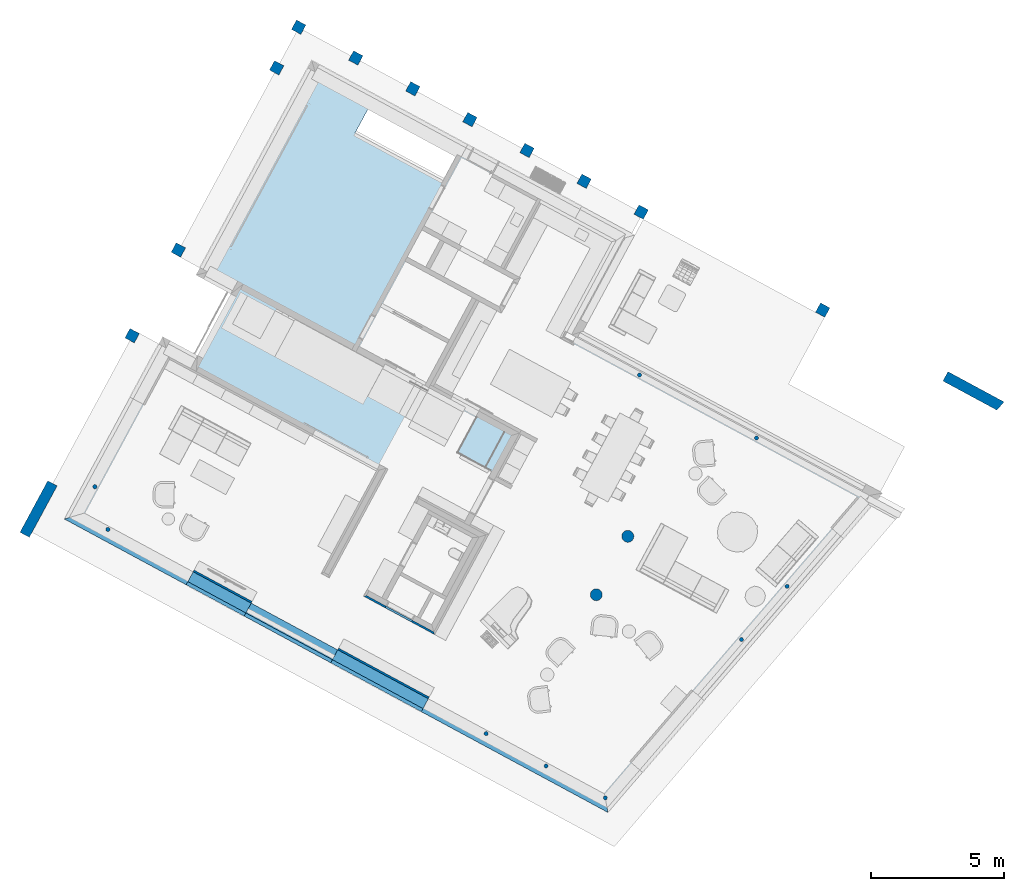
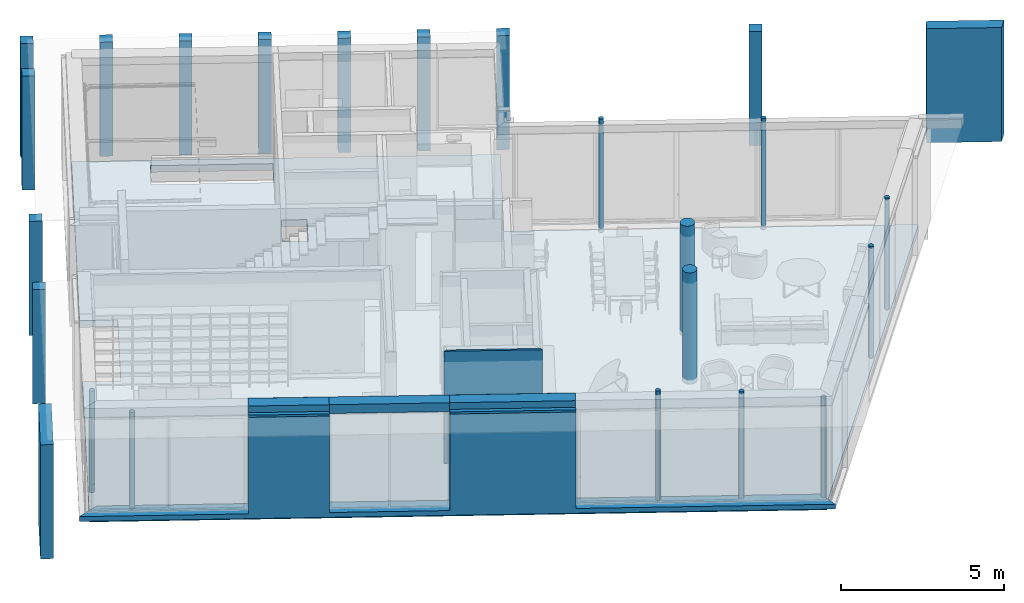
# One storey, part 1 of 36: 24 columns, 7 walls, 1 slab, 5 openings.
"""IFC2X3 building model written with IfcOpenShell, lengths in metres."""

from ifc_helpers import new_model, entity, si_unit, converted_unit, derived_unit, money_unit, direction, frame, origin_with_axes, origin_2d_with_axis, place, context, subcontext, project, spatial, polyline, rectangle, circle, hollow_circle, outline, composite_profile, extrude, faceted_brep, material, material_list, layer, layer_set, layer_usage, type_object, element, save


model = new_model("IFC2X3")

# Units and contexts
model_context = context("Model", 3, precision=1e-05, world=origin_with_axes(), true_north=direction((0.0, 1.0)))
body_context = subcontext(model_context, "Body", "Model", "MODEL_VIEW")
ifc_project = project(units=[si_unit("LENGTHUNIT", "METRE"), si_unit("AREAUNIT", "SQUARE_METRE"), si_unit("VOLUMEUNIT", "CUBIC_METRE"), converted_unit("PLANEANGLEUNIT", "DEGREE", entity("IfcPlaneAngleMeasure", 0.0174532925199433), si_unit("PLANEANGLEUNIT", "RADIAN"), dimensions=[0, 0, 0, 0, 0, 0, 0]), money_unit("EUR"), converted_unit("TIMEUNIT", "Year", entity("IfcTimeMeasure", 31556926.0), si_unit("TIMEUNIT", "SECOND"), dimensions=[0, 0, 1, 0, 0, 0, 0]), si_unit("MASSUNIT", "GRAM", prefix="KILO"), si_unit("THERMODYNAMICTEMPERATUREUNIT", "DEGREE_CELSIUS"), si_unit("LUMINOUSINTENSITYUNIT", "LUMEN"), si_unit("ENERGYUNIT", "JOULE", prefix="MEGA"), derived_unit("THERMALCONDUCTANCEUNIT", [(si_unit("POWERUNIT", "WATT"), 1), (si_unit("LENGTHUNIT", "METRE"), -1), (si_unit("THERMODYNAMICTEMPERATUREUNIT", "KELVIN"), -1)]), derived_unit("SPECIFICHEATCAPACITYUNIT", [(si_unit("ENERGYUNIT", "JOULE"), 1), (si_unit("MASSUNIT", "GRAM", prefix="KILO"), -1), (si_unit("THERMODYNAMICTEMPERATUREUNIT", "KELVIN"), -1)]), derived_unit("MASSDENSITYUNIT", [(si_unit("MASSUNIT", "GRAM", prefix="KILO"), 1), (si_unit("VOLUMEUNIT", "CUBIC_METRE"), -1)])], contexts=[model_context])

# Site, building, storey
site_placement = place(None, frame((-3.949935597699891, 1.740105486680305, 0.0), z_axis=(0.0, 0.0, 1.0), x_axis=(0.8799804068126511, -0.475009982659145, 0.0)))
site = spatial("IfcSite", under=ifc_project, at=site_placement, Name="Gelände", CompositionType="ELEMENT")
building_placement = place(site_placement, origin_with_axes())
building = spatial("IfcBuilding", under=site, at=building_placement, Name="Gebäude", CompositionType="ELEMENT")
storey_placement = place(building_placement, origin_with_axes())
storey = spatial("IfcBuildingStorey", under=building, at=storey_placement, Name="Erdgeschoss", CompositionType="ELEMENT", Elevation=0.0)

# Columns
ifc_material_1 = material(Name="_SIWH - Beton, Stahlbeton")
column_type_1 = type_object("IfcColumnType", Name="_SIWH - Beton, Stahlbeton 400 x 400", PredefinedType="COLUMN")
for number, where, z_axis, x_axis in (
    (1, (10.15997864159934, 20.38528753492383, -0.699999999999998), (0.0, 0.0, 1.0), (1.0, 0.0, 0.0)),
    (2, (17.48247501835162, 20.38527610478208, -0.699999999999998), (0.0, 0.0, 1.0), (1.0, 0.0, 0.0)),
    (3, (2.837482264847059, 20.38527570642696, -0.699999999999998), (0.0, 0.0, 1.0), (1.0, 0.0, 0.0)),
    (4, (25.24515309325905, 20.38528753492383, -0.699999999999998), (0.0, 0.0, 1.0), (1.0, 0.0, 0.0)),
    (5, (5.278314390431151, 20.38528753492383, -0.699999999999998), (0.0, 0.0, 1.0), (1.0, 0.0, 0.0)),
):
    element("IfcColumn", number, at=place(storey_placement, frame(where, z_axis=z_axis, x_axis=x_axis)), inside=storey, type_object=column_type_1, material=ifc_material_1, Name="Stütze-003", ObjectType="COLUMN", context=body_context, shape_type="SweptSolid", body=[
        extrude(rectangle(XDim=0.4, YDim=0.4, at=origin_2d_with_axis()), origin_with_axes(), (0.0, 0.0, 1.0), 4.279999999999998),
    ])
for number, where, z_axis, x_axis in (
    (6, (2.837489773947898, 18.64471461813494, -0.699999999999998), (0.0, 0.0, 1.0), (1.0, 0.0, 0.0)),
    (7, (2.837482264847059, 7.193058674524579, -0.699999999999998), (0.0, 0.0, 1.0), (1.0, 0.0, 0.0)),
):
    element("IfcColumn", number, at=place(storey_placement, frame(where, z_axis=z_axis, x_axis=x_axis)), inside=storey, type_object=column_type_1, material=ifc_material_1, Name="Stütze-003", ObjectType="COLUMN", context=body_context, shape_type="SweptSolid", body=[
        extrude(rectangle(XDim=0.4, YDim=0.4, at=origin_2d_with_axis()), origin_with_axes(), (0.0, 0.0, 1.0), 4.280000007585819),
    ])
for number, where, z_axis, x_axis in (
    (8, (7.719146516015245, 20.38528753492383, -0.699999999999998), (0.0, 0.0, 1.0), (1.0, 0.0, 0.0)),
    (9, (15.04164289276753, 20.38528753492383, -0.699999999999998), (0.0, 0.0, 1.0), (1.0, 0.0, 0.0)),
    (10, (12.60081076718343, 20.38528753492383, -0.699999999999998), (0.0, 0.0, 1.0), (1.0, 0.0, 0.0)),
):
    element("IfcColumn", number, at=place(storey_placement, frame(where, z_axis=z_axis, x_axis=x_axis)), inside=storey, type_object=column_type_1, material=ifc_material_1, Name="Stütze-003", ObjectType="COLUMN", context=body_context, shape_type="SweptSolid", body=[
        extrude(rectangle(XDim=0.4, YDim=0.4, at=origin_2d_with_axis()), origin_with_axes(), (0.0, 0.0, 1.0), 4.279999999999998),
    ])
column_1_placement = place(storey_placement, frame((2.837482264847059, 10.85779998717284, -0.699999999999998), z_axis=(0.0, 0.0, 1.0), x_axis=(-1.0, 0.0, 0.0)))
element("IfcColumn", 11, at=column_1_placement, inside=storey, type_object=column_type_1, material=ifc_material_1, Name="Stütze-003", ObjectType="COLUMN", context=body_context, shape_type="SweptSolid", body=[
    extrude(rectangle(XDim=0.4, YDim=0.4, at=origin_2d_with_axis()), frame((0.0, 0.0, 0.0), z_axis=(0.0, 0.0, -1.0), x_axis=(-1.0, 0.0, 0.0)), (0.0, 0.0, -1.0), 4.280000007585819),
])
column_type_2 = type_object("IfcColumnType", Name="_SIWH - Außenstütze1 EG 2395 x 400", PredefinedType="COLUMN")
column_2_placement = place(storey_placement, frame((30.49515309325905, 20.58528752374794, -0.699999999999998), z_axis=(0.0, 0.0, 1.0), x_axis=(1.0, 0.0, 0.0)))
element("IfcColumn", 12, at=column_2_placement, inside=storey, type_object=column_type_2, material=ifc_material_1, Name="Stütze-004", ObjectType="COLUMN", context=body_context, shape_type="SweptSolid", body=[
    extrude(outline(polyline([(0.0, -0.3999999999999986), (2.30763671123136, -0.4000000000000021), (2.395, 0.0), (0.0, 0.0), (0.0, -0.3999999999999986)])), origin_with_axes(), (0.0, 0.0, 1.0), 4.279999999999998),
])
ifc_material_2 = material(Name="Metall, Edelstahl")
column_type_3 = type_object("IfcColumnType", Name="Metall, Edelstahl D152", PredefinedType="COLUMN")
column_3_placement = place(storey_placement, frame((29.00554945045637, 10.6023659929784, -0.1800000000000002), z_axis=(0.0, 0.0, 1.0), x_axis=(0.9769696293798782, -0.2133784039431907, 0.0)))
element("IfcColumn", 13, at=column_3_placement, inside=storey, type_object=column_type_3, material=ifc_material_2, Name="Stütze-003", ObjectType="COLUMN", context=body_context, shape_type="SweptSolid", body=[
    extrude(circle(Radius=0.076, at=origin_2d_with_axis()), origin_with_axes(), (0.0, 0.0, 1.0), 4.200000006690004),
])
column_4_placement = place(storey_placement, frame((20.34097637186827, 14.96310096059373, -0.1499999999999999), z_axis=(0.0, 0.0, 1.0), x_axis=(1.0, 0.0, 0.0)))
element("IfcColumn", 14, at=column_4_placement, inside=storey, type_object=column_type_3, material=ifc_material_2, Name="Stütze-003", ObjectType="COLUMN", context=body_context, shape_type="SweptSolid", body=[
    extrude(circle(Radius=0.076, at=origin_2d_with_axis()), origin_with_axes(), (0.0, 0.0, 1.0), 4.250000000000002),
])
column_5_placement = place(storey_placement, frame((25.33797719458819, 14.96310096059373, -0.1499999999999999), z_axis=(0.0, 0.0, 1.0), x_axis=(1.0, 0.0, 0.0)))
element("IfcColumn", 15, at=column_5_placement, inside=storey, type_object=column_type_3, material=ifc_material_2, Name="Stütze-003", ObjectType="COLUMN", context=body_context, shape_type="SweptSolid", body=[
    extrude(circle(Radius=0.076, at=origin_2d_with_axis()), origin_with_axes(), (0.0, 0.0, 1.0), 4.170000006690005),
])
column_6_placement = place(storey_placement, frame((28.44198971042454, 8.022063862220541, -0.1800000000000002), z_axis=(0.0, 0.0, 1.0), x_axis=(0.9769696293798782, -0.2133784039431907, 0.0)))
element("IfcColumn", 16, at=column_6_placement, inside=storey, type_object=column_type_3, material=ifc_material_2, Name="Stütze-003", ObjectType="COLUMN", context=body_context, shape_type="SweptSolid", body=[
    extrude(circle(Radius=0.076, at=origin_2d_with_axis()), origin_with_axes(), (0.0, 0.0, 1.0), 4.200000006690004),
])
ifc_material_3 = material(Name="_SIWH | Metall, Stahl lackiert")
ifc_material_4 = material(Name="_SIWH - Luftschicht vertikal")
ifc_material_list_1 = material_list([ifc_material_3, ifc_material_4])
column_type_4 = type_object("IfcColumnType", Name="_SIWH - Luftschicht vertikal D160", PredefinedType="COLUMN")
for number, where, z_axis, x_axis in (
    (17, (5.49748062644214, 0.3449953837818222, -0.18), (0.0, 0.0, 1.0), (1.0, 0.0, 0.0)),
    (18, (4.302529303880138, 1.524985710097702, -0.18), (0.0, 0.0, 1.0), (1.0, 0.0, 0.0)),
):
    element("IfcColumn", number, at=place(storey_placement, frame(where, z_axis=z_axis, x_axis=x_axis)), inside=storey, type_object=column_type_4, material=ifc_material_list_1, Name="Stütze-003", ObjectType="COLUMN", context=body_context, shape_type="SweptSolid", body=[
        extrude(composite_profile([hollow_circle(Radius=0.07984999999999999, WallThickness=0.01, at=origin_2d_with_axis()), circle(Radius=0.06985, at=origin_2d_with_axis())]), origin_with_axes(), (0.0, 0.0, 1.0), 3.800000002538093),
    ])
column_type_5 = type_object("IfcColumnType", Name="_SIWH - Beton, Stahlbeton 400 x 2200", PredefinedType="COLUMN")
column_7_placement = place(storey_placement, frame((2.837482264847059, -0.2200118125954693, -0.699999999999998), z_axis=(0.0, 0.0, 1.0), x_axis=(1.0, 0.0, 0.0)))
element("IfcColumn", 19, at=column_7_placement, inside=storey, type_object=column_type_5, material=ifc_material_1, Name="Stütze-003", ObjectType="COLUMN", context=body_context, shape_type="SweptSolid", body=[
    extrude(rectangle(XDim=0.4, YDim=2.2, at=origin_2d_with_axis()), origin_with_axes(), (0.0, 0.0, 1.0), 4.27999999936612),
])
ifc_material_5 = material(Name="Metall, Edelstahl-Stütze")
column_type_6 = type_object("IfcColumnType", Name="Metall, Edelstahl-Stütze D152", PredefinedType="COLUMN")
column_8_placement = place(storey_placement, frame((24.23819426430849, 0.3450001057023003, -0.1800000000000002), z_axis=(0.0, 0.0, 1.0), x_axis=(1.0, 0.0, 0.0)))
element("IfcColumn", 20, at=column_8_placement, inside=storey, type_object=column_type_6, material=ifc_material_5, Name="Stütze-003", ObjectType="COLUMN", context=body_context, shape_type="SweptSolid", body=[
    extrude(circle(Radius=0.076, at=origin_2d_with_axis()), origin_with_axes(), (0.0, 0.0, 1.0), 4.199999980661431),
])
column_9_placement = place(storey_placement, frame((21.67152759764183, 0.3450001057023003, -0.1499999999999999), z_axis=(0.0, 0.0, 1.0), x_axis=(1.0, 0.0, 0.0)))
element("IfcColumn", 21, at=column_9_placement, inside=storey, type_object=column_type_6, material=ifc_material_5, Name="Stütze-003", ObjectType="COLUMN", context=body_context, shape_type="SweptSolid", body=[
    extrude(circle(Radius=0.076, at=origin_2d_with_axis()), origin_with_axes(), (0.0, 0.0, 1.0), 4.250000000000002),
])
column_10_placement = place(storey_placement, frame((26.76525426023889, 0.3450001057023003, -0.1800000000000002), z_axis=(0.0, 0.0, 1.0), x_axis=(1.0, 0.0, 0.0)))
element("IfcColumn", 22, at=column_10_placement, inside=storey, type_object=column_type_6, material=ifc_material_5, Name="Stütze-003", ObjectType="COLUMN", context=body_context, shape_type="SweptSolid", body=[
    extrude(circle(Radius=0.076, at=origin_2d_with_axis()), origin_with_axes(), (0.0, 0.0, 1.0), 3.93),
])
ifc_material_6 = material(Name="Beton, Stahlbeton C30/35")
column_type_7 = type_object("IfcColumnType", Name="Beton, Stahlbeton C30/35 D450", PredefinedType="NOTDEFINED")
for number, where, z_axis, x_axis in (
    (23, (22.83697549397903, 9.410553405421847, -0.1499999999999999), (0.0, 0.0, 1.0), (1.0, 0.0, 0.0)),
    (24, (22.83697549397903, 6.910553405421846, -0.1499999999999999), (0.0, 0.0, 1.0), (1.0, 0.0, 0.0)),
):
    element("IfcColumn", number, at=place(storey_placement, frame(where, z_axis=z_axis, x_axis=x_axis)), inside=storey, type_object=column_type_7, material=ifc_material_6, Name="Stütze-003", ObjectType="NOTDEFINED", context=body_context, shape_type="SweptSolid", body=[
        extrude(circle(Radius=0.225, at=origin_2d_with_axis()), origin_with_axes(), (0.0, 0.0, 1.0), 4.170000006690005),
    ])

# Slab, opening
ifc_layer_1 = layer(ifc_material_1, 0.25, ventilated="UNKNOWN")
ifc_layer_set_1 = layer_set([ifc_layer_1], Name="_SIWH - Beton, Stahlbeton 0.25")
ifc_layer_usage_1 = layer_usage(ifc_layer_set_1, "AXIS3", "NEGATIVE", 0.25)
slab_type = type_object("IfcSlabType", Name="_SIWH - Beton, Stahlbeton 250", PredefinedType="FLOOR")
slab_placement = place(storey_placement, frame((4.182485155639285, 0.2249914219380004, -0.1800000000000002), z_axis=(0.0, 0.0, 1.0), x_axis=(1.0, 0.0, 0.0)))
slab = element("IfcSlab", 25, at=slab_placement, inside=storey, type_object=slab_type, material=ifc_layer_usage_1, Name="Decke004", PredefinedType="FLOOR", context=body_context, shape_type="SweptSolid", body=[
    extrude(outline(polyline([(0.0, 0.0), (22.67938862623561, 0.0), (24.32559897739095, 7.537309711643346), (25.92451140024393, 14.85805468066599), (13.18500922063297, 14.85805468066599), (13.18499074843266, 18.97528335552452), (4.668971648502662e-05, 18.97528599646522), (3.203654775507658e-05, 10.43280795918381), (1.174996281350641, 10.43281183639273), (1.175007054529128, 7.168066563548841), (0.0, 7.168062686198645), (0.0, 0.0)]), holes=[polyline([(2.414916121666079, 18.67529423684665), (6.179914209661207, 18.67529423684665), (6.179914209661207, 17.66529189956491), (2.414916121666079, 17.66529189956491), (2.414916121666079, 18.67529423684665)])]), frame((0.0, 0.0, -0.25), z_axis=(0.0, 0.0, 1.0), x_axis=(1.0, 0.0, 0.0)), (0.0, 0.0, 1.0), 0.25),
])
opening_1_placement = place(slab_placement, frame((-4.182485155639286, -0.2249914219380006, 0.1800000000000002), z_axis=(0.0, 0.0, 1.0), x_axis=(1.0, 0.0, 0.0)))
element("IfcOpeningElement", 26, at=opening_1_placement, cuts=slab, Name="BD-002", ObjectType="OPENING", context=body_context, shape_type="SweptSolid", body=[
    extrude(outline(polyline([(-0.3951594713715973, -0.5808026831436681), (0.3951645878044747, -0.5807991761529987), (0.3951623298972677, 0.5808026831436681), (-0.3951645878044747, 0.5807992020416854), (-0.3951594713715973, -0.5808026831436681)])), frame((10.93257292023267, 15.29389253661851, -0.4300000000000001), z_axis=(0.0, 0.0, 1.0), x_axis=(1.0, 0.0, 0.0)), (0.0, 0.0, 1.0), 0.4999999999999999),
])

# Wall, openings
ifc_material_7 = material(Name="_SIWH - MW Vormauerziegel")
ifc_layer_2 = layer(ifc_material_7, 0.115, ventilated="UNKNOWN")
ifc_layer_3 = layer(ifc_material_4, 0.02, ventilated="UNKNOWN")
ifc_material_8 = material(Name="_SIWH - Dämmung, weich Mineralwolle")
ifc_layer_4 = layer(ifc_material_8, 0.18, ventilated="UNKNOWN")
ifc_layer_5 = layer(ifc_material_1, 0.24, ventilated="UNKNOWN")
ifc_layer_set_2 = layer_set([ifc_layer_2, ifc_layer_3, ifc_layer_4, ifc_layer_5], Name="_SIWH - WA | Stb. 24+WD 18+LS 2+Verblender 11,5 | 55,5cm")
ifc_layer_usage_2 = layer_usage(ifc_layer_set_2, "AXIS2", "POSITIVE", -0.315)
wall_type_1 = type_object("IfcWallType", Name="_SIWH - WA | Stb. 24+WD 18+LS 2+Verblender 11,5 | 55,5cm 555", PredefinedType="NOTDEFINED")
wall_1_placement = place(storey_placement, frame((4.1825262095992, 0.2249963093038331, -0.18), z_axis=(0.0, 0.0, 1.0), x_axis=(0.9999999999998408, -5.644435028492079e-07, 0.0)))
wall_1 = element("IfcWallStandardCase", 27, at=wall_1_placement, inside=storey, type_object=wall_type_1, material=ifc_layer_usage_2, Name="A-Wand040", ObjectType="NOTDEFINED", context=body_context, shape_type="SweptSolid", body=[
    extrude(outline(polyline([(-0.3149999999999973, -0.3150000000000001), (22.93297601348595, -0.315), (22.4861091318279, 0.2399999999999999), (0.2400000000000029, 0.2399999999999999), (-0.3149999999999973, -0.3150000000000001)])), origin_with_axes(), (0.0, 0.0, 1.0), 3.799999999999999),
])
opening_2_placement = place(wall_1_placement, frame((18.73616060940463, 0.0, 0.1800000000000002), z_axis=(0.0, 0.0, 1.0), x_axis=(1.0, 0.0, 0.0)))
element("IfcOpeningElement", 28, at=opening_2_placement, cuts=wall_1, Name="Fenster-003", context=body_context, shape_type="Brep", body=[
    faceted_brep([(4.196815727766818, -0.315000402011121, 3.619999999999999), (4.196815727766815, -0.3160128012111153, 3.619999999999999), (4.196815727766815, -0.3160128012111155, 0.0), (4.196815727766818, -0.3150004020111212, 0.0), (3.842542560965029, 0.1250000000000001, 3.619999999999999), (-3.783825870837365, 0.1250000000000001, 3.619999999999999), (-3.783825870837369, -0.3160128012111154, 3.619999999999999), (-3.783825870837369, -0.3160128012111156, 0.0), (-3.783825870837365, 0.1249999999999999, 0.0), (3.842542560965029, 0.1249999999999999, 0.0), (3.749133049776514, 0.2410128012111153, 0.0), (3.749133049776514, 0.2410128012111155, 3.619999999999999), (-3.783825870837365, 0.2410128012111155, 3.619999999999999), (-3.783825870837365, 0.2410128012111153, 0.0)], [[[0, 1, 2, 3]], [[4, 5, 6, 1, 0]], [[6, 7, 2, 1]], [[8, 9, 3, 2, 7]], [[0, 3, 9, 10, 11, 4]], [[5, 4, 11, 12]], [[5, 8, 7, 6]], [[9, 8, 13, 10]], [[10, 13, 12, 11]], [[8, 5, 12, 13]]]),
])
opening_3_placement = place(wall_1_placement, frame((9.227462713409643, 0.0, 0.1800000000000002), z_axis=(0.0, 0.0, 1.0), x_axis=(1.0, 0.0, 0.0)))
element("IfcOpeningElement", 29, at=opening_3_placement, cuts=wall_1, Name="Fenster-003", context=body_context, shape_type="SweptSolid", body=[
    extrude(rectangle(XDim=3.699999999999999, YDim=3.619999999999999, at=origin_2d_with_axis()), frame((0.0, -0.2449999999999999, 1.81), z_axis=(0.0, 1.0, 0.0), x_axis=(-1.0, 0.0, 0.0)), (0.0, 0.0, 1.0), 1.04),
    extrude(rectangle(XDim=3.699999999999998, YDim=3.619999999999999, at=origin_2d_with_axis()), frame((0.0, -0.2449999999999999, 1.81), z_axis=(0.0, -1.0, 0.0), x_axis=(-1.0, 0.0, 0.0)), (0.0, 0.0, 1.0), 0.625),
])
opening_4_placement = place(wall_1_placement, frame((2.544955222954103, 0.0, 0.1800000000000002), z_axis=(0.0, 0.0, 1.0), x_axis=(1.0, 0.0, 0.0)))
element("IfcOpeningElement", 30, at=opening_4_placement, cuts=wall_1, Name="Fenster-014", context=body_context, shape_type="Brep", body=[
    faceted_brep([(2.349999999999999, 0.1249999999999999, 0.0), (2.349999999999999, 0.1250000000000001, 3.619999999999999), (2.350000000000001, -0.3160128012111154, 3.619999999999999), (2.350000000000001, -0.3160128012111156, 0.0), (2.349999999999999, 0.2410128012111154, 0.0), (2.349999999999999, 0.2410128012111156, 3.619999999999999), (-2.419955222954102, 0.1250000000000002, 3.619999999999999), (-2.859999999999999, -0.3150447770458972, 3.619999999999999), (-2.859999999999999, -0.3160128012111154, 3.619999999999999), (-2.859999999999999, -0.3160128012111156, 0.0), (-2.419955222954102, 0.125, 0.0), (-2.859999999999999, -0.3150447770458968, 0.0), (-2.303942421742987, 0.2410128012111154, 0.0), (-2.303942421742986, 0.2410128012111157, 3.619999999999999)], [[[0, 1, 2, 3]], [[1, 0, 4, 5]], [[1, 6, 7, 8, 2]], [[8, 9, 3, 2]], [[10, 0, 3, 9, 11]], [[0, 10, 12, 4]], [[5, 4, 12, 13]], [[6, 1, 5, 13]], [[7, 6, 13, 12, 10, 11]], [[11, 9, 8, 7]]]),
])

# Wall
ifc_layer_6 = layer(ifc_material_8, 0.18, ventilated="UNKNOWN")
ifc_layer_7 = layer(ifc_material_1, 0.24, ventilated="UNKNOWN")
ifc_layer_set_3 = layer_set([ifc_layer_6, ifc_layer_7], Name="_SIWH - WA | Stb. 24+WD 18 | 42cm")
ifc_layer_usage_3 = layer_usage(ifc_layer_set_3, "AXIS2", "POSITIVE", -0.18)
wall_type_2 = type_object("IfcWallType", Name="_SIWH - WA | Stb. 24+WD 18 | 42cm 420", PredefinedType="NOTDEFINED")
wall_2_placement = place(storey_placement, frame((11.559988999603, 0.2249835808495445, 3.619999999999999), z_axis=(0.0, 0.0, 1.0), x_axis=(0.9999999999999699, -2.452875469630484e-07, 0.0)))
element("IfcWallStandardCase", 31, at=wall_2_placement, inside=storey, type_object=wall_type_2, material=ifc_layer_usage_3, Name="A-Wand008", ObjectType="NOTDEFINED", context=body_context, shape_type="SweptSolid", body=[
    extrude(outline(polyline([(0.0, -0.18), (3.699999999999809, -0.18), (3.699999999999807, 0.24), (0.0, 0.2399999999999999), (0.0, -0.18)])), origin_with_axes(), (0.0, 0.0, 1.0), 0.330000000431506),
])

# Wall, opening
ifc_material_9 = material(Name="_SIWH - Gipskarton")
ifc_layer_8 = layer(ifc_material_9, 0.0125, ventilated="UNKNOWN")
ifc_layer_9 = layer(ifc_material_9, 0.0125, ventilated="UNKNOWN")
ifc_material_10 = material(Name="_SIWH - Installationswand, raumhoch")
ifc_layer_10 = layer(ifc_material_10, 0.05, ventilated="UNKNOWN")
ifc_layer_set_4 = layer_set([ifc_layer_8, ifc_layer_9, ifc_layer_10], Name="_SIWH - WI | Vorsatz-GK 2-lagig | 7,5cm")
ifc_layer_usage_4 = layer_usage(ifc_layer_set_4, "AXIS2", "NEGATIVE", 0.0)
wall_type_3 = type_object("IfcWallType", Name="_SIWH - WI | Vorsatz-GK 2-lagig | 7,5cm  75", PredefinedType="PLUMBINGWALL")
wall_3_placement = place(storey_placement, frame((18.19650044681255, 2.703482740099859, -0.1800000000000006), z_axis=(0.0, 0.0, 1.0), x_axis=(-1.0, 0.0, 0.0)))
wall_3 = element("IfcWallStandardCase", 32, at=wall_3_placement, inside=storey, type_object=wall_type_3, material=ifc_layer_usage_4, Name="L-Wand008", ObjectType="PLUMBINGWALL", context=body_context, shape_type="SweptSolid", body=[
    extrude(outline(polyline([(0.07499999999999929, -0.07500000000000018), (2.960672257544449, -0.07500000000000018), (3.035672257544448, 0.0), (0.0, 0.0), (0.07499999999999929, -0.07500000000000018)])), origin_with_axes(), (0.0, 0.0, 1.0), 4.200000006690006),
])
opening_5_placement = place(wall_3_placement, frame((1.555843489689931, 0.0, 0.1800000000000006), z_axis=(0.0, 0.0, 1.0), x_axis=(1.0, 0.0, 0.0)))
element("IfcOpeningElement", 33, at=opening_5_placement, cuts=wall_3, Name="Tür-025", context=body_context, shape_type="SweptSolid", body=[
    extrude(rectangle(XDim=1.135000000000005, YDim=2.1, at=origin_2d_with_axis()), frame((0.0, -0.02499999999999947, 1.05), z_axis=(0.0, -1.0, 0.0), x_axis=(1.0, 0.0, 0.0)), (0.0, 0.0, 1.0), 0.125),
    extrude(rectangle(XDim=1.135000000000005, YDim=2.1, at=origin_2d_with_axis()), frame((0.0, -0.02499999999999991, 1.05), z_axis=(0.0, 1.0, 0.0), x_axis=(1.0, 0.0, 0.0)), (0.0, 0.0, 1.0), 0.1),
])

# Walls
ifc_layer_usage_5 = layer_usage(ifc_layer_set_4, "AXIS2", "NEGATIVE", 0.07500000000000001)
wall_4_placement = place(storey_placement, frame((15.25998888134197, 0.4649900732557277, -0.1799999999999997), z_axis=(0.0, 0.0, 1.0), x_axis=(0.9999999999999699, -2.452875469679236e-07, 0.0)))
element("IfcWallStandardCase", 34, at=wall_4_placement, inside=storey, type_object=wall_type_3, material=ifc_layer_usage_5, Name="L-Wand014", ObjectType="PLUMBINGWALL", context=body_context, shape_type="SweptSolid", body=[
    extrude(outline(polyline([(0.0, 0.0), (3.874872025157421, 0.0), (3.874872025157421, 0.07499999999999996), (0.0, 0.07499999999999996), (0.0, 0.0)])), origin_with_axes(), (0.0, 0.0, 1.0), 4.080000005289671),
])
ifc_layer_usage_6 = layer_usage(ifc_layer_set_4, "AXIS2", "NEGATIVE", 0.07500000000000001)
wall_5_placement = place(storey_placement, frame((9.077481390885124, 0.4649921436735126, -0.1799999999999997), z_axis=(0.0, 0.0, 1.0), x_axis=(0.9999999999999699, -2.452875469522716e-07, 0.0)))
element("IfcWallStandardCase", 35, at=wall_5_placement, inside=storey, type_object=wall_type_3, material=ifc_layer_usage_6, Name="L-Wand013", ObjectType="PLUMBINGWALL", context=body_context, shape_type="SweptSolid", body=[
    extrude(outline(polyline([(0.0, 0.0), (2.482507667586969, 0.0), (2.482507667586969, 0.07500000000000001), (0.0, 0.07500000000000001), (0.0, 0.0)])), origin_with_axes(), (0.0, 0.0, 1.0), 4.080000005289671),
])
ifc_material_list_2 = material_list([ifc_material_8, ifc_material_1, ifc_material_7, ifc_material_4])
wall_type_4 = type_object("IfcWallType", Name="_SIWH - Sturz Außenwand EG 555 x 330", PredefinedType="NOTDEFINED")
wall_6_placement = place(storey_placement, frame((15.25998882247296, 0.2249900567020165, 3.620000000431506), z_axis=(0.0, 0.0, 1.0), x_axis=(0.9999999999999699, -2.452875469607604e-07, 0.0)))
element("IfcWall", 36, at=wall_6_placement, inside=storey, type_object=wall_type_4, material=ifc_material_list_2, Name="A-Wand010", ObjectType="NOTDEFINED", context=body_context, shape_type="SweptSolid", body=[
    extrude(composite_profile([outline(polyline([(0.1799999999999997, 0.3300000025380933), (3.224471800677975e-10, 0.3300000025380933), (3.224471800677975e-10, 0.0), (0.1799999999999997, 0.0), (0.1800000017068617, 0.08000000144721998), (0.1799999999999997, 0.3300000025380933)])), outline(polyline([(-0.2400000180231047, 0.33), (-0.2400000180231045, 0.0), (0.0, 0.0), (0.0, 0.33), (-0.2400000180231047, 0.33)])), outline(polyline([(0.1999999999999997, 0.08000000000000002), (0.1999999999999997, 0.0), (0.3149999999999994, 0.0), (0.3149999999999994, 0.08000000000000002), (0.1999999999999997, 0.08000000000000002)])), outline(polyline([(0.1800000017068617, 0.0), (0.2000000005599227, 0.0), (0.2000000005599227, 0.07999999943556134), (0.1800000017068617, 0.08000000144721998), (0.1800000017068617, 0.0)]))]), frame((0.0, 0.0, 0.0), z_axis=(-1.0, 0.0, 0.0), x_axis=(0.0, -1.0, 0.0)), (0.0, 0.0, -1.0), 3.874872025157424),
])
wall_7_placement = place(storey_placement, frame((9.077481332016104, 0.2249921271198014, 3.620000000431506), z_axis=(0.0, 0.0, 1.0), x_axis=(0.9999999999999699, -2.452875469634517e-07, 0.0)))
element("IfcWall", 37, at=wall_7_placement, inside=storey, type_object=wall_type_4, material=ifc_material_list_2, Name="A-Wand009", ObjectType="NOTDEFINED", context=body_context, shape_type="SweptSolid", body=[
    extrude(composite_profile([outline(polyline([(0.1799999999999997, 0.3300000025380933), (3.224471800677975e-10, 0.3300000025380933), (3.224471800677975e-10, 0.0), (0.1799999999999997, 0.0), (0.1800000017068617, 0.08000000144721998), (0.1799999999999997, 0.3300000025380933)])), outline(polyline([(-0.2400000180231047, 0.33), (-0.2400000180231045, 0.0), (0.0, 0.0), (0.0, 0.33), (-0.2400000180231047, 0.33)])), outline(polyline([(0.1999999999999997, 0.08000000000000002), (0.1999999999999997, 0.0), (0.3149999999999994, 0.0), (0.3149999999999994, 0.08000000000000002), (0.1999999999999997, 0.08000000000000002)])), outline(polyline([(0.1800000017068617, 0.0), (0.2000000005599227, 0.0), (0.2000000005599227, 0.07999999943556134), (0.1800000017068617, 0.08000000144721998), (0.1800000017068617, 0.0)]))]), frame((0.0, 0.0, 0.0), z_axis=(-1.0, 0.0, 0.0), x_axis=(0.0, -1.0, 0.0)), (0.0, 0.0, -1.0), 2.482507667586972),
])

save(model, "model.ifc")
